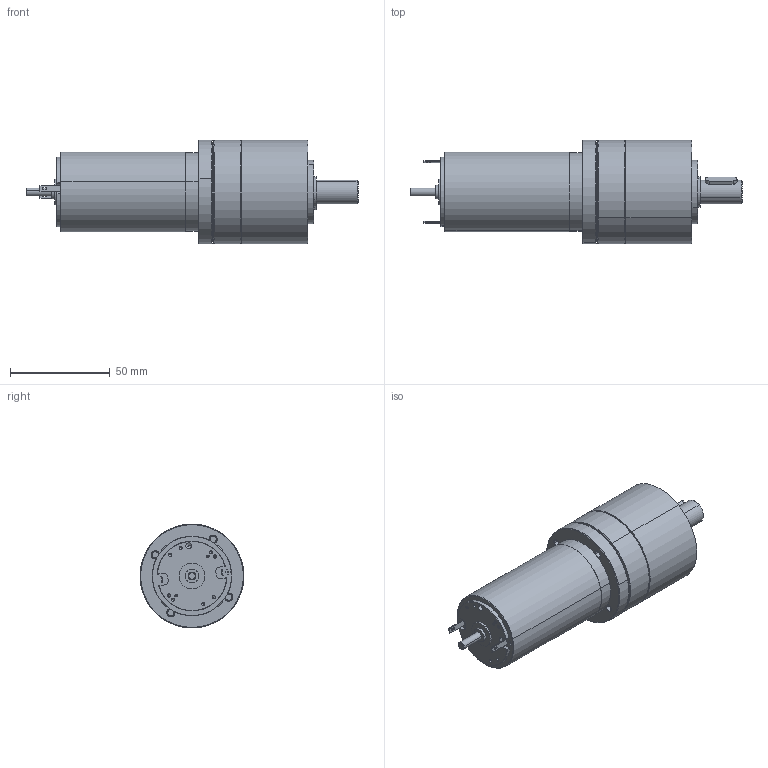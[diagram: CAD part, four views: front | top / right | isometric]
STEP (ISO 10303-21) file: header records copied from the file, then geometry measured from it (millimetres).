
FILE_DESCRIPTION (( 'STEP AP214' ), '1' );
FILE_NAME ('RE40_+_PM52-1etage.STEP', '2014-03-03T07:49:53', ( '' ), ( '' ), 'SwSTEP 2.0', 'SolidWorks 2013', '' );
FILE_SCHEMA (( 'AUTOMOTIVE_DESIGN' ));
Length unit declared in the file: millimetre
Products named in the file (18): RE40G_Part; RE40_+_PM52-1etage; PM52 pour RE40 - 1249626; 8001093_MOTORRITZEL_Z17; GK2152_POS3_6_ANLAUFSCHEIBE_1ST_2; D912_M4X10_1; MOTORFLANSCH_1240398; SCHRAUBE_1241978_6; 8006230_ZAHNKRANZ_Z46_2; 8006405_DICHTRING_2; 4X4X16_D6885A_2; D471_12X1_5_2; 8102168_ABTRIEB_LK1_KPL_2; GK2152_POS31_2_LAGERBOLZEN_2; 8101171_ABTRIEB_ROHTEIL_AF0_2; DIN998_PS_12X18X1_2; D625-6001-2RS_2; 8006231_LAGERFLANSCH_2
Assembly tree (27 placements, depth 4):
  RE40_+_PM52-1etage
    RE40G_Part
    PM52 pour RE40 - 1249626
      8006231_LAGERFLANSCH_2
      D625-6001-2RS_2  x2
      DIN998_PS_12X18X1_2  x2
      8102168_ABTRIEB_LK1_KPL_2
        8101171_ABTRIEB_ROHTEIL_AF0_2
        GK2152_POS31_2_LAGERBOLZEN_2  x3
      D471_12X1_5_2
      4X4X16_D6885A_2
      8006405_DICHTRING_2  x2
      8006230_ZAHNKRANZ_Z46_2
      SCHRAUBE_1241978_6  x4
      MOTORFLANSCH_1240398
      D912_M4X10_1  x3
      GK2152_POS3_6_ANLAUFSCHEIBE_1ST_2
      8001093_MOTORRITZEL_Z17
Bounding box: 166.2 x 52 x 52 mm (x, y, z)
Volume: 111932.1 mm3; surface area: 71502.9 mm2
Topology: 19 solids, 47 shells, 951 faces, 2396 edges, 1534 vertices
Faces by surface type: cylinder 435, plane 326, cone 136, bspline 54
Entity records: 26843 total; most frequent: CARTESIAN_POINT 5302, DIRECTION 4369, ORIENTED_EDGE 3880, EDGE_CURVE 1962, AXIS2_PLACEMENT_3D 1667, VERTEX_POINT 1280, LINE 1035, VECTOR 1035
